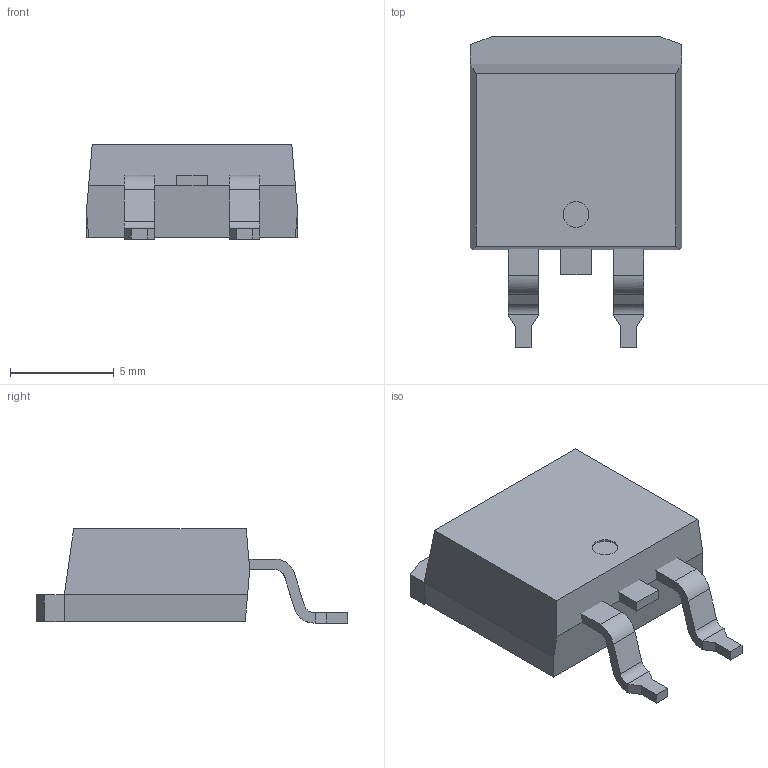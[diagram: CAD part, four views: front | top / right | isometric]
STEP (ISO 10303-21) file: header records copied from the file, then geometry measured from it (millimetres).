
FILE_DESCRIPTION(/* description */ ('Unknown'),/* implementation_level */ '2;1');
FILE_NAME(/* name */ 'TO-263AB',/* time_stamp */ '2024-06-28T08:38:03+08:00',/* author */ ('Unknown'),/* organization */ ('Unknown'),/* preprocessor_version */ 'ST-DEVELOPER v18.104',/* originating_system */ 'Solid Edge',/* authorisation */ 'Unknown');
FILE_SCHEMA (('AUTOMOTIVE_DESIGN {1 0 10303 214 3 1 1}'));
Length unit declared in the file: millimetre
Products named in the file (1): TO-263AB
Bounding box: 10.16 x 15 x 4.53 mm (x, y, z)
Volume: 473.7 mm3; surface area: 565.9 mm2
Topology: 5 solids, 5 shells, 73 faces, 184 edges, 122 vertices
Faces by surface type: plane 64, cylinder 9
Full cylindrical faces by diameter (mm): 1.234 x1
Entity records: 2305 total; most frequent: CARTESIAN_POINT 379, ORIENTED_EDGE 366, DIRECTION 349, EDGE_CURVE 183, LINE 165, VECTOR 165, VERTEX_POINT 122, AXIS2_PLACEMENT_3D 92
